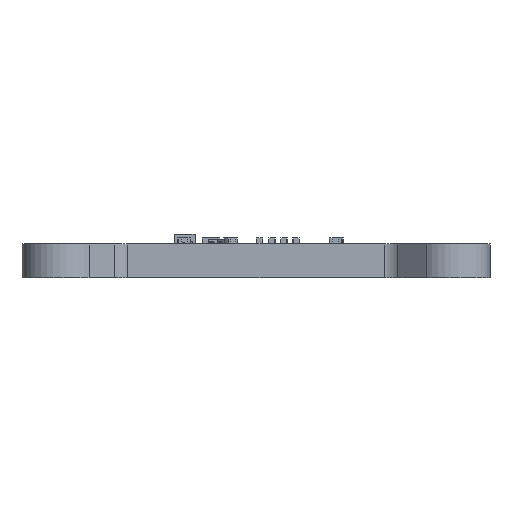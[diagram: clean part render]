
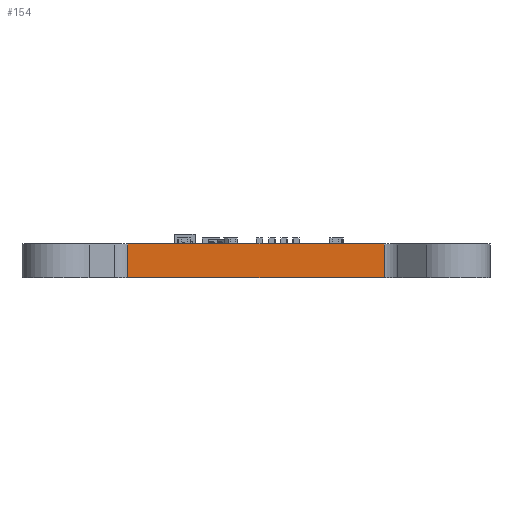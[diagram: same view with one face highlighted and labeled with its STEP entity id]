
A CAD part, left-side view. The second image highlights one B-rep face of the part: STEP entity #154.
In plain terms, the highlighted planar face has unit normal (-1, 0, 0).
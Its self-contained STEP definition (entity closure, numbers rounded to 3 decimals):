
#116 = EDGE_CURVE('',#117,#119,#121,.T.);
#117 = VERTEX_POINT('',#118);
#118 = CARTESIAN_POINT('',(1.795,35.078,0.));
#119 = VERTEX_POINT('',#120);
#120 = CARTESIAN_POINT('',(1.795,35.078,2.63
    ));
#121 = LINE('',#122,#123);
#122 = CARTESIAN_POINT('',(1.795,35.078,0.));
#123 = VECTOR('',#124,1.);
#124 = DIRECTION('',(0.,0.,1.));
#154 = ADVANCED_FACE('',(#155),#180,.T.);
#155 = FACE_BOUND('',#156,.T.);
#156 = EDGE_LOOP('',(#157,#167,#173,#174));
#157 = ORIENTED_EDGE('',*,*,#158,.T.);
#158 = EDGE_CURVE('',#159,#161,#163,.T.);
#159 = VERTEX_POINT('',#160);
#160 = CARTESIAN_POINT('',(1.795,15.078,0.));
#161 = VERTEX_POINT('',#162);
#162 = CARTESIAN_POINT('',(1.795,15.078,2.63)
  );
#163 = LINE('',#164,#165);
#164 = CARTESIAN_POINT('',(1.795,15.078,0.));
#165 = VECTOR('',#166,1.);
#166 = DIRECTION('',(0.,0.,1.));
#167 = ORIENTED_EDGE('',*,*,#168,.T.);
#168 = EDGE_CURVE('',#161,#119,#169,.T.);
#169 = LINE('',#170,#171);
#170 = CARTESIAN_POINT('',(1.795,15.078,2.63)
  );
#171 = VECTOR('',#172,1.);
#172 = DIRECTION('',(0.,1.,0.));
#173 = ORIENTED_EDGE('',*,*,#116,.F.);
#174 = ORIENTED_EDGE('',*,*,#175,.F.);
#175 = EDGE_CURVE('',#159,#117,#176,.T.);
#176 = LINE('',#177,#178);
#177 = CARTESIAN_POINT('',(1.795,15.078,0.));
#178 = VECTOR('',#179,1.);
#179 = DIRECTION('',(0.,1.,0.));
#180 = PLANE('',#181);
#181 = AXIS2_PLACEMENT_3D('',#182,#183,#184);
#182 = CARTESIAN_POINT('',(1.795,15.078,0.));
#183 = DIRECTION('',(-1.,0.,0.));
#184 = DIRECTION('',(0.,1.,0.));
